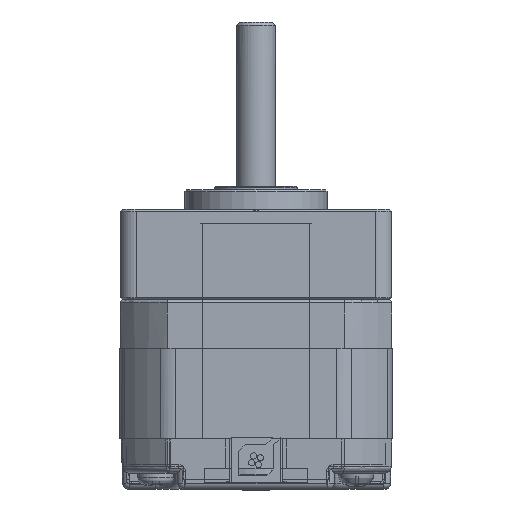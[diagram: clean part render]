
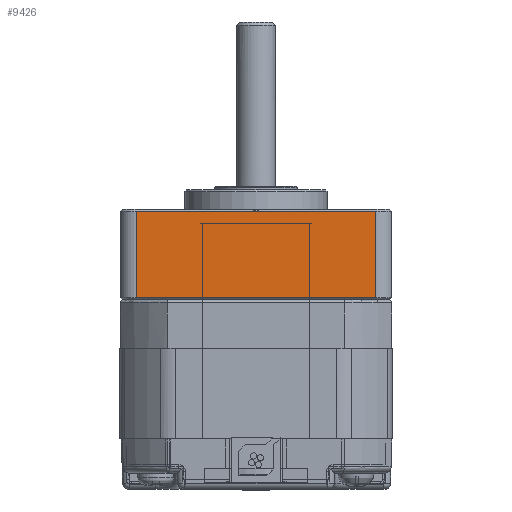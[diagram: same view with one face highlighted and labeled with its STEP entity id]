
A CAD part, front view. The second image highlights one B-rep face of the part: STEP entity #9426.
In plain terms, the highlighted planar face has unit normal (0, -1, 0).
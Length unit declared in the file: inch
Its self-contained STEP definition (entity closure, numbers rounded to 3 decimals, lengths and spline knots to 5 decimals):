
#500=LINE('',#14761,#1045);
#526=LINE('',#14846,#1071);
#533=LINE('',#14881,#1078);
#534=LINE('',#14883,#1079);
#1045=VECTOR('',#11595,1.45669);
#1071=VECTOR('',#11693,1.45669);
#1078=VECTOR('',#11748,0.52756);
#1079=VECTOR('',#11751,0.52756);
#1537=PLANE('',#10175);
#2034=FACE_OUTER_BOUND('',#2697,.T.);
#2697=EDGE_LOOP('',(#6554,#6555,#6556,#6557));
#4082=VERTEX_POINT('',#14758);
#4083=VERTEX_POINT('',#14760);
#4105=VERTEX_POINT('',#14838);
#4106=VERTEX_POINT('',#14842);
#4980=EDGE_CURVE('',#4083,#4082,#500,.T.);
#5025=EDGE_CURVE('',#4106,#4105,#526,.T.);
#5041=EDGE_CURVE('',#4106,#4082,#533,.T.);
#5042=EDGE_CURVE('',#4105,#4083,#534,.T.);
#6554=ORIENTED_EDGE('',*,*,#5041,.F.);
#6555=ORIENTED_EDGE('',*,*,#5025,.T.);
#6556=ORIENTED_EDGE('',*,*,#5042,.T.);
#6557=ORIENTED_EDGE('',*,*,#4980,.T.);
#9426=ADVANCED_FACE('',(#2034),#1537,.F.);
#10175=AXIS2_PLACEMENT_3D('',#14882,#11749,#11750);
#11595=DIRECTION('',(-1.,0.,0.));
#11693=DIRECTION('',(1.,0.,0.));
#11748=DIRECTION('',(0.,0.,1.));
#11749=DIRECTION('center_axis',(0.,1.,0.));
#11750=DIRECTION('ref_axis',(0.,0.,1.));
#11751=DIRECTION('',(0.,0.,1.));
#14758=CARTESIAN_POINT('',(-0.72835,-0.82677,0.83737));
#14760=CARTESIAN_POINT('',(0.72835,-0.82677,0.83737));
#14761=CARTESIAN_POINT('',(0.72835,-0.82677,0.83737));
#14838=CARTESIAN_POINT('',(0.72835,-0.82677,0.30981));
#14842=CARTESIAN_POINT('',(-0.72835,-0.82677,0.30981));
#14846=CARTESIAN_POINT('',(-0.72835,-0.82677,0.30981));
#14881=CARTESIAN_POINT('',(-0.72835,-0.82677,0.30981));
#14882=CARTESIAN_POINT('Origin',(-0.72835,-0.82677,
0.298));
#14883=CARTESIAN_POINT('',(0.72835,-0.82677,0.30981));
